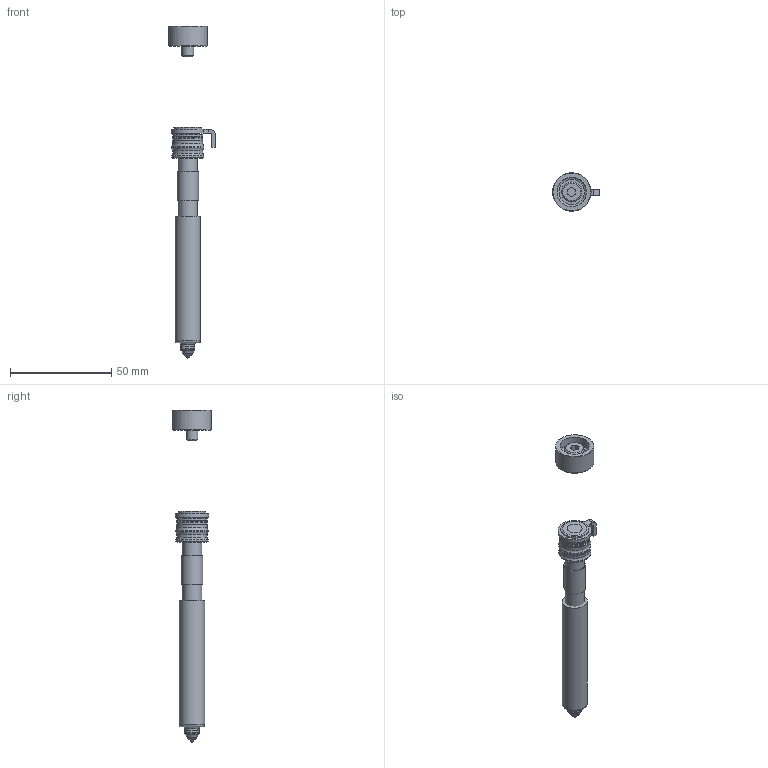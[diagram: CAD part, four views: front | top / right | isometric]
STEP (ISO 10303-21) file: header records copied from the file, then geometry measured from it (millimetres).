
FILE_DESCRIPTION(/* description */ (''),/* implementation_level */ '2;1');
FILE_NAME(/* name */ 'U250 HT-D.stp',/* time_stamp */ '2021-12-23T12:45:23+08:00',/* author */ (''),/* organization */ (''),/* preprocessor_version */ 'ST-DEVELOPER v16',/* originating_system */ 'SIEMENS PLM Software NX 11.0',/* authorisation */ '');
FILE_SCHEMA (('AUTOMOTIVE_DESIGN { 1 0 10303 214 3 1 1 1 }'));
Length unit declared in the file: millimetre
Products named in the file (10): 3D_EXPORT_3D_ASSY_11309861_1_id52_x_t; 3D_EXPORT_3D_ASSY_11309861_1_id47_x_t; 3D_EXPORT_3D_ASSY_11309861_1_id42_x_t; 3D_EXPORT_3D_ASSY_11309861_1_id37_x_t; 3D_EXPORT_3D_ASSY_11309861_1_id32_x_t; 3D_EXPORT_3D_ASSY_11309861_1_id27_x_t; 3D_EXPORT_3D_ASSY_11309861_1_id22_x_t; 3D_EXPORT_3D_ASSY_11309861_1_id11_x_t; 3D_EXPORT_3D_ASSY_11309861_1_id6_x_t; 3D_EXPORT_3D_ASSY_11309861_1_x_t
Assembly tree (12 placements, depth 2):
  3D_EXPORT_3D_ASSY_11309861_1_x_t
    3D_EXPORT_3D_ASSY_11309861_1_id6_x_t
    3D_EXPORT_3D_ASSY_11309861_1_id11_x_t  x4
    3D_EXPORT_3D_ASSY_11309861_1_id22_x_t
    3D_EXPORT_3D_ASSY_11309861_1_id27_x_t
    3D_EXPORT_3D_ASSY_11309861_1_id32_x_t
    3D_EXPORT_3D_ASSY_11309861_1_id37_x_t
    3D_EXPORT_3D_ASSY_11309861_1_id42_x_t
    3D_EXPORT_3D_ASSY_11309861_1_id47_x_t
    3D_EXPORT_3D_ASSY_11309861_1_id52_x_t
Bounding box: 23.18 x 19 x 163.81 mm (x, y, z)
Volume: 24179.4 mm3; surface area: 13521.4 mm2
Topology: 12 solids, 13 shells, 179 faces, 359 edges, 218 vertices
Faces by surface type: plane 71, cylinder 45, cone 38, torus 20, bspline 4, sphere 1
Full cylindrical faces by diameter (mm): 0.7 x1, 3.7 x1, 4.81 x2, 4.967 x1, 5.5 x1, 5.795 x1, 6 x1, 6.45 x1, 6.465 x1, 6.5 x1, 6.995 x1, 7 x1, 7.1 x1, 9.56 x2, 10 x1, 10.61 x1, 12.5 x1, 13.8 x1, 14.5 x1, 15 x6, 15.99 x2, 19 x1
Entity records: 5578 total; most frequent: CARTESIAN_POINT 954, DIRECTION 712, ORIENTED_EDGE 524, AXIS2_PLACEMENT_3D 314, EDGE_CURVE 262, EDGE_LOOP 248, VERTEX_POINT 194, PRESENTATION_STYLE_ASSIGNMENT 176
